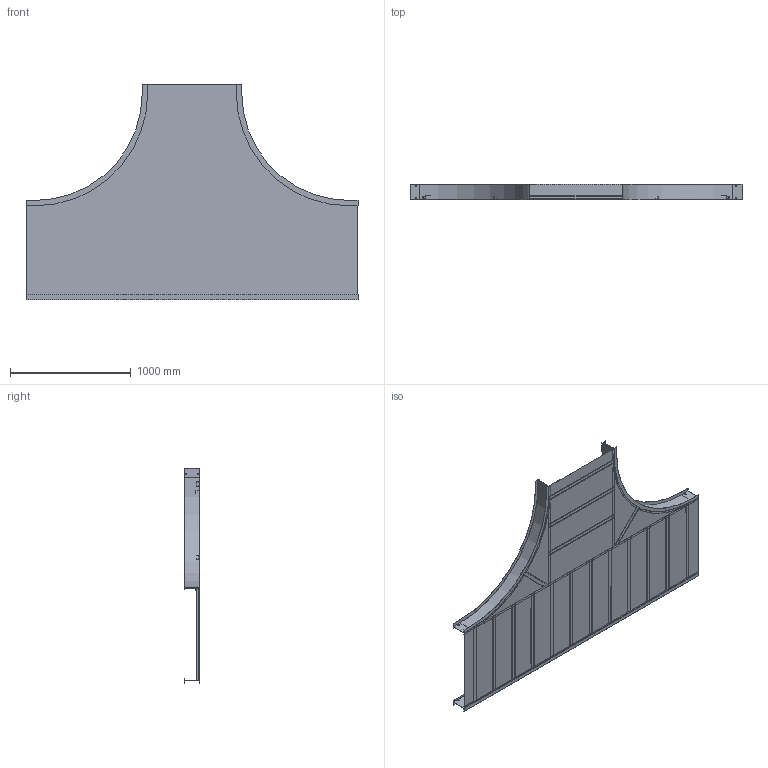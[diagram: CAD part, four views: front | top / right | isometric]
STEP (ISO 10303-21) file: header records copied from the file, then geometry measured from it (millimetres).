
FILE_DESCRIPTION((''),'2;1');
FILE_NAME('AHF530SHT36_ASM','2010-01-27T',('erouzier'),(''),'PRO/ENGINEER BY PARAMETRIC TECHNOLOGY CORPORATION, 2008510','PRO/ENGINEER BY PARAMETRIC TECHNOLOGY CORPORATION, 2008510','');
FILE_SCHEMA(('CONFIG_CONTROL_DESIGN'));
Length unit declared in the file: inch
Products named in the file (21): CDS001811-5-90-36-I; CDS013846-5-108; CDS000495_GEN_AF9; CDS002159L30_AF14; CDS002159L30_AF15; CDS002159L30_AF16; CDS002159L30_AF17; CDS002159L30; CDS002159L30_AF18; CDS002159L30_AF19; CDS002159L30_AF20; CDS002159L30_AF21; CDS000495_GEN_AF10; CDS000495_GEN_AF11; CDS002159L18_AF14; CDS002159L18_AF15; CDS002159L30_AF11; CDS002159L30_AF12; CDS002159L30_AF13; ED04589-30-36-30; AHF530SHT36_ASM
Assembly tree (24 placements, depth 2):
  AHF530SHT36_ASM
    CDS001811-5-90-36-I  x2
    CDS013846-5-108
    CDS000495_GEN_AF9
    CDS002159L30_AF14
    CDS002159L30_AF15
    CDS002159L30_AF16
    CDS002159L30_AF17
    CDS002159L30  x4
    CDS002159L30_AF18
    CDS002159L30_AF19
    CDS002159L30_AF20
    CDS002159L30_AF21
    CDS000495_GEN_AF10
    CDS000495_GEN_AF11
    CDS002159L18_AF14
    CDS002159L18_AF15
    CDS002159L30_AF11
    CDS002159L30_AF12
    CDS002159L30_AF13
    ED04589-30-36-30
Bounding box: 2747.26 x 129.54 x 1785.24 mm (x, y, z)
Volume: 8249225.3 mm3; surface area: 12375215.8 mm2
Topology: 24 solids, 24 shells, 666 faces, 1854 edges, 1236 vertices
Faces by surface type: plane 465, cylinder 201
Entity records: 17699 total; most frequent: CARTESIAN_POINT 3221, ORIENTED_EDGE 2964, DIRECTION 2920, EDGE_CURVE 1482, VECTOR 1158, LINE 1158, VERTEX_POINT 988, AXIS2_PLACEMENT_3D 881
